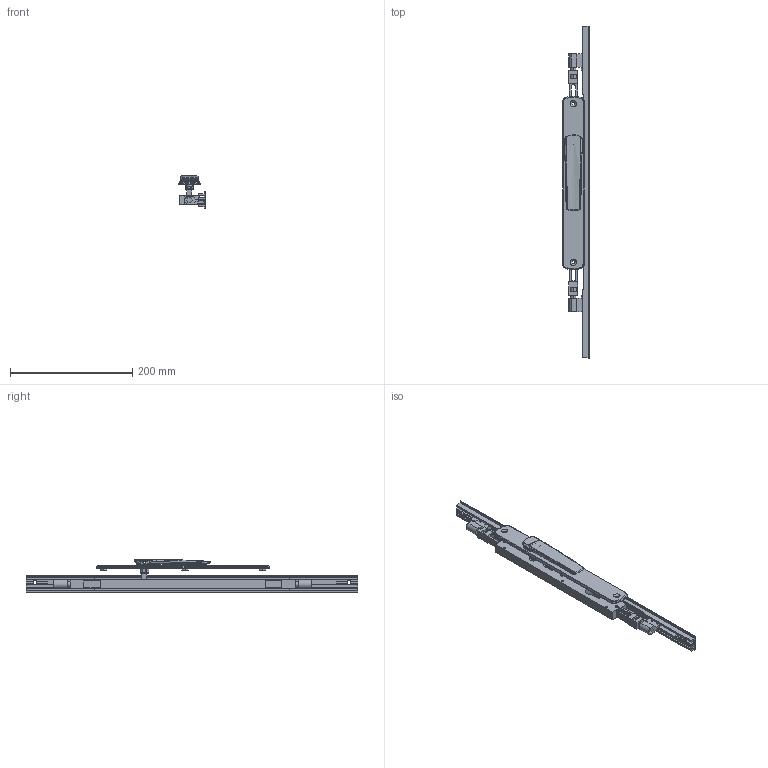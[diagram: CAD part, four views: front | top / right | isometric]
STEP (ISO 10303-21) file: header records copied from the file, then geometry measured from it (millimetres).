
FILE_DESCRIPTION (( 'STEP AP214' ), '1' );
FILE_NAME ('TPL-W-EU-611-L 06Nov2024.STEP', '2024-11-27T01:40:49', ( '' ), ( '' ), 'SwSTEP 2.0', 'SolidWorks 2023', '' );
FILE_SCHEMA (( 'AUTOMOTIVE_DESIGN' ));
Length unit declared in the file: millimetre
Products named in the file (18): Copy of TPLGen2 push rod - simplified^Copy of TPLGen2 lock body keyed assembly_TPL-W-EU-111 04Nov2024_Female thread M10; Copy of TPGen2 handle non-keyed long zinc - simplified^TPL-W-EU-111 04Nov2024_Vertical; Copy of TPLGen2 lock body keyed assembly^TPL-W-EU-111 04Nov2024_Bolts extended; Copy of LKC-586 Spindle square 8mm with M4 hole^Copy of TPGen2 handle non-keyed long zinc - simplified_TPL-W-EU-111 04Nov2024_25mm; Copy of LKC-583 Escutcheon plate unkeyed 285mm long zinc - simplified^Copy of TPGen2 handle non-keyed long zinc - simplified_TPL-W-EU-111 04Nov2024; Copy of COV-112-C Cover C TPLGen2 Lock body^TPL-W-EU-111 04Nov2024; Copy of LKC-531 Lock twinpoint transmission rod wood system^TPL-W-EU-111 04Nov2024_Standard Range (588.7mm); TPL-W-EU-611-L 06Nov2024; Bolt.step; Copy of COV-112-A Cover A suit TPLGen2 standard range^TPL-W-EU-111 04Nov2024_1335mm; Copy of LKC-584 Pivot body zinc - simplified^Copy of TPGen2 handle non-keyed long zinc - simplified_TPL-W-EU-111 04Nov2024; Copy of TPLGen2 lock body keyed^Copy of TPLGen2 lock body keyed assembly_TPL-W-EU-111 04Nov2024; Copy of Copy of LKC-531 Lock twinpoint transmission rod wood system^TPL-W-EU-111 04Nov2024_Standard Range 2891.7mm; Copy of Adapter CnE - simplfied^TPL-W-EU-111 04Nov2024_26mm backset; Copy of LKC-505 Swing handle zinc - simplified^Copy of TPGen2 handle non-keyed long zinc - simplified_TPL-W-EU-111 04Nov2024; Copy of Adapter DnF - simplfied^TPL-W-EU-111 04Nov2024_26mm backset; Copy of COV-112-B Cover B suit TPLGen2 standard range^TPL-W-EU-111 04Nov2024_2870mm; Copy of LKC-585 Rotator body zinc^Copy of TPGen2 handle non-keyed long zinc - simplified_TPL-W-EU-111 04Nov2024
Assembly tree (15 placements, depth 3):
  TPL-W-EU-611-L 06Nov2024
    Copy of TPLGen2 lock body keyed assembly^TPL-W-EU-111 04Nov2024_Bolts extended
      Copy of TPLGen2 lock body keyed^Copy of TPLGen2 lock body keyed assembly_TPL-W-EU-111 04Nov2024
      Copy of TPLGen2 push rod - simplified^Copy of TPLGen2 lock body keyed assembly_TPL-W-EU-111 04Nov2024_Female thread M10  x2
    Copy of TPGen2 handle non-keyed long zinc - simplified^TPL-W-EU-111 04Nov2024_Vertical
      Copy of LKC-583 Escutcheon plate unkeyed 285mm long zinc - simplified^Copy of TPGen2 handle non-keyed long zinc - simplified_TPL-W-EU-111 04Nov2024
      Copy of LKC-505 Swing handle zinc - simplified^Copy of TPGen2 handle non-keyed long zinc - simplified_TPL-W-EU-111 04Nov2024
      Copy of LKC-585 Rotator body zinc^Copy of TPGen2 handle non-keyed long zinc - simplified_TPL-W-EU-111 04Nov2024
      Copy of LKC-586 Spindle square 8mm with M4 hole^Copy of TPGen2 handle non-keyed long zinc - simplified_TPL-W-EU-111 04Nov2024_25mm
      Copy of LKC-584 Pivot body zinc - simplified^Copy of TPGen2 handle non-keyed long zinc - simplified_TPL-W-EU-111 04Nov2024
    Copy of COV-112-C Cover C TPLGen2 Lock body^TPL-W-EU-111 04Nov2024
    Copy of Copy of LKC-531 Lock twinpoint transmission rod wood system^TPL-W-EU-111 04Nov2024_Standard Range 2891.7mm
    Copy of LKC-531 Lock twinpoint transmission rod wood system^TPL-W-EU-111 04Nov2024_Standard Range (588.7mm)
    Copy of Adapter CnE - simplfied^TPL-W-EU-111 04Nov2024_26mm backset
    Copy of Adapter DnF - simplfied^TPL-W-EU-111 04Nov2024_26mm backset
  Bolt.step
  Copy of COV-112-A Cover A suit TPLGen2 standard range^TPL-W-EU-111 04Nov2024_1335mm
  Copy of COV-112-B Cover B suit TPLGen2 standard range^TPL-W-EU-111 04Nov2024_2870mm
Bounding box: 43.5 x 544 x 53.86 mm (x, y, z)
Volume: 269442.8 mm3; surface area: 134922.3 mm2
Topology: 13 solids, 13 shells, 889 faces, 2193 edges, 1364 vertices
Faces by surface type: plane 310, bspline 241, cylinder 208, cone 70, torus 52, sphere 8
Entity records: 31874 total; most frequent: CARTESIAN_POINT 12777, ORIENTED_EDGE 4194, DIRECTION 3431, EDGE_CURVE 2097, VERTEX_POINT 1304, AXIS2_PLACEMENT_3D 1260, EDGE_LOOP 949, LINE 911
